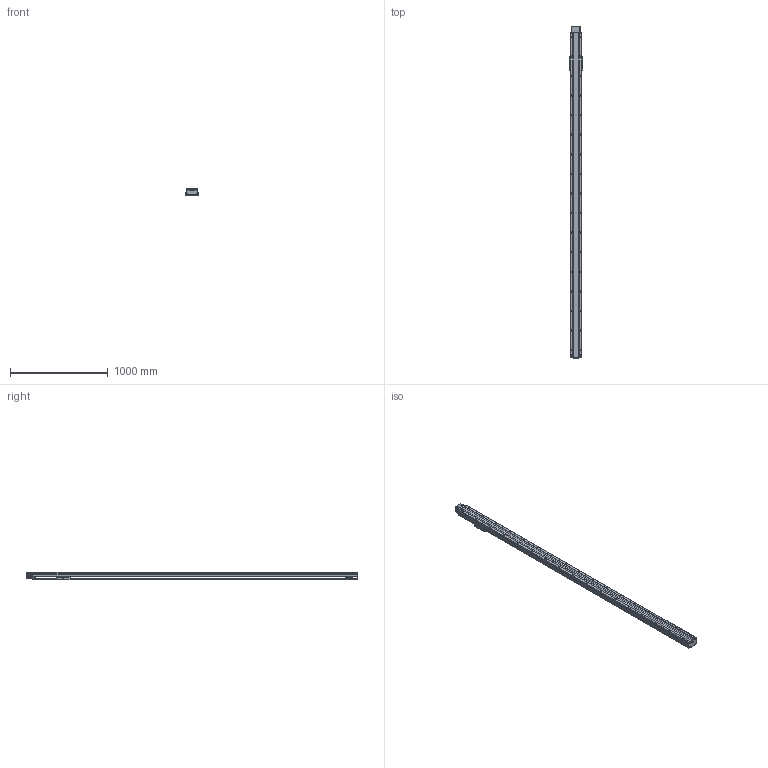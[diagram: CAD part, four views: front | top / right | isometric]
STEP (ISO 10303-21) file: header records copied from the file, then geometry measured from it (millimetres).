
FILE_DESCRIPTION(/* description */ (''),/* implementation_level */ '2;1');
FILE_NAME(/* name */ 'TKB120-FL-3000_asm1_stp.stp',/* time_stamp */ '2016-06-28T15:54:28+08:00',/* author */ (''),/* organization */ (''),/* preprocessor_version */ 'ST-DEVELOPER v15',/* originating_system */ 'SIEMENS PLM Software NX 8.5',/* authorisation */ '');
FILE_SCHEMA (('AUTOMOTIVE_DESIGN { 1 0 10303 214 3 1 1 1 }'));
Length unit declared in the file: millimetre
Products named in the file (3): 200-2; 200-1; TKB120-FL-3000_asm1_stp
Assembly tree (2 placements, depth 2):
  TKB120-FL-3000_asm1_stp
    200-1
    200-2
Bounding box: 134 x 3391 x 80 mm (x, y, z)
Volume: 7982512.3 mm3; surface area: 3365586.9 mm2
Topology: 2 solids, 3 shells, 960 faces, 2857 edges, 1873 vertices
Faces by surface type: cylinder 493, plane 425, cone 42
Full cylindrical faces by diameter (mm): 2.5 x4, 3.3 x20, 4.2 x4, 4.5 x24, 5 x46, 5.5 x36, 6.6 x6, 6.8 x4, 7.5 x4, 8 x12, 9 x6, 9.75 x72, 10.5 x4, 11 x2, 12 x4, 14 x2, 17 x2, 35 x2, 40 x3, 50 x2, 52 x1
Entity records: 32205 total; most frequent: CARTESIAN_POINT 7293, DIRECTION 5176, ORIENTED_EDGE 4826, EDGE_CURVE 2413, AXIS2_PLACEMENT_3D 1996, VERTEX_POINT 1773, EDGE_LOOP 1528, LINE 1184
